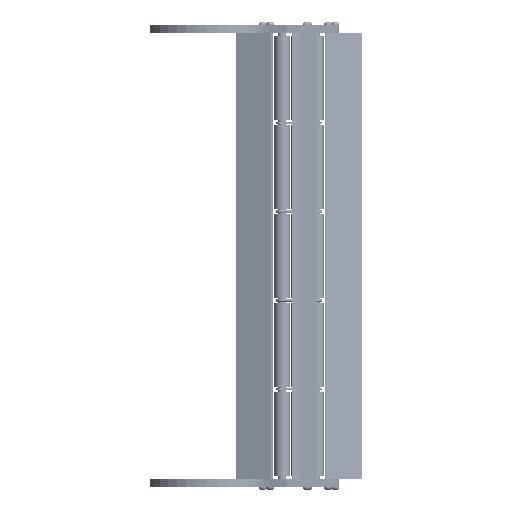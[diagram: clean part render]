
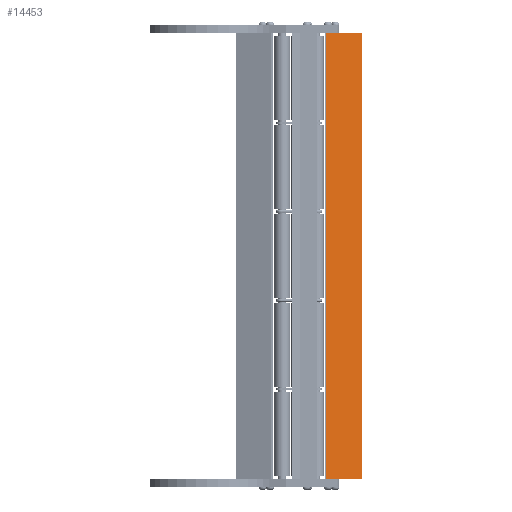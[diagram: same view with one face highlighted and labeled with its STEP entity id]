
A CAD part, front view. The second image highlights one B-rep face of the part: STEP entity #14453.
In plain terms, the highlighted planar face has unit normal (0.342, -0.94, 0).
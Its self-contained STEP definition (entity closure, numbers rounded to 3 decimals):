
#171 = ORIENTED_EDGE ( 'NONE', *, *, #10267, .F. ) ;
#257 = CARTESIAN_POINT ( 'NONE',  ( 35., 12.137, 418. ) ) ;
#1174 = LINE ( 'NONE', #16281, #15761 ) ;
#1247 = DIRECTION ( 'NONE',  ( 0.94, 0.342, 0. ) ) ;
#1583 = DIRECTION ( 'NONE',  ( 0.94, 0.342, 0. ) ) ;
#1652 = DIRECTION ( 'NONE',  ( 0., 0., -1. ) ) ;
#2906 = CARTESIAN_POINT ( 'NONE',  ( 35., 12.137, 418. ) ) ;
#3326 = CARTESIAN_POINT ( 'NONE',  ( 1.655, 0., 418. ) ) ;
#3519 = CARTESIAN_POINT ( 'NONE',  ( 35., 12.137, 418. ) ) ;
#4305 = LINE ( 'NONE', #3519, #18412 ) ;
#4858 = ORIENTED_EDGE ( 'NONE', *, *, #13069, .F. ) ;
#5590 = VECTOR ( 'NONE', #1583, 1000. ) ;
#5699 = VERTEX_POINT ( 'NONE', #3326 ) ;
#5716 = VERTEX_POINT ( 'NONE', #10892 ) ;
#7406 = DIRECTION ( 'NONE',  ( 0., 0., -1. ) ) ;
#8701 = ORIENTED_EDGE ( 'NONE', *, *, #15472, .T. ) ;
#8821 = DIRECTION ( 'NONE',  ( -0.342, 0.94, 0. ) ) ;
#9147 = ORIENTED_EDGE ( 'NONE', *, *, #14654, .T. ) ;
#9781 = EDGE_LOOP ( 'NONE', ( #9147, #171, #4858, #8701 ) ) ;
#10267 = EDGE_CURVE ( 'NONE', #12712, #5716, #4305, .T. ) ;
#10280 = VECTOR ( 'NONE', #1247, 1000. ) ;
#10660 = FACE_OUTER_BOUND ( 'NONE', #9781, .T. ) ;
#10892 = CARTESIAN_POINT ( 'NONE',  ( 35., 12.137, 0. ) ) ;
#11045 = DIRECTION ( 'NONE',  ( -0.94, -0.342, 0. ) ) ;
#12712 = VERTEX_POINT ( 'NONE', #257 ) ;
#13069 = EDGE_CURVE ( 'NONE', #5699, #12712, #17856, .T. ) ;
#14453 = ADVANCED_FACE ( 'NONE', ( #10660 ), #16181, .F. ) ;
#14492 = LINE ( 'NONE', #18967, #10280 ) ;
#14654 = EDGE_CURVE ( 'NONE', #16032, #5716, #14492, .T. ) ;
#15472 = EDGE_CURVE ( 'NONE', #5699, #16032, #1174, .T. ) ;
#15761 = VECTOR ( 'NONE', #1652, 1000. ) ;
#16032 = VERTEX_POINT ( 'NONE', #16044 ) ;
#16044 = CARTESIAN_POINT ( 'NONE',  ( 1.655, 0., 0. ) ) ;
#16181 = PLANE ( 'NONE',  #17386 ) ;
#16281 = CARTESIAN_POINT ( 'NONE',  ( 1.655, 0., 418. ) ) ;
#17386 = AXIS2_PLACEMENT_3D ( 'NONE', #2906, #8821, #11045 ) ;
#17856 = LINE ( 'NONE', #17946, #5590 ) ;
#17946 = CARTESIAN_POINT ( 'NONE',  ( 1.655, 0., 418. ) ) ;
#18412 = VECTOR ( 'NONE', #7406, 1000. ) ;
#18967 = CARTESIAN_POINT ( 'NONE',  ( 35., 12.137, 0. ) ) ;
